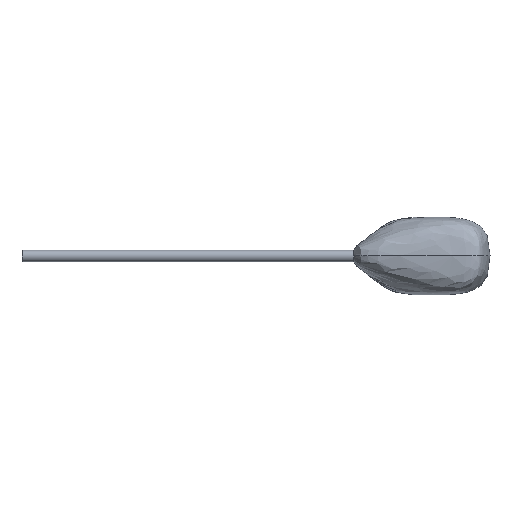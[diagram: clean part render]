
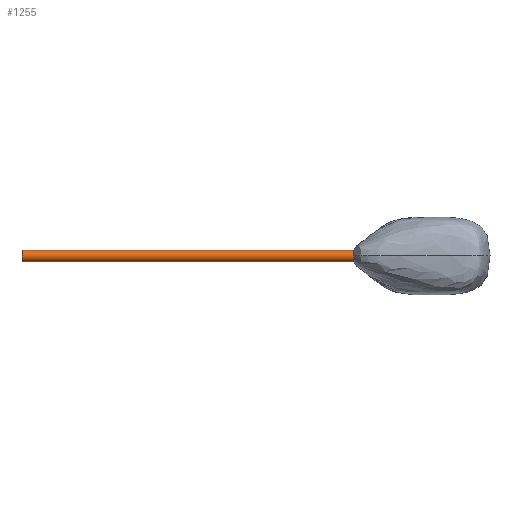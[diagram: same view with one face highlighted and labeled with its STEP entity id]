
A CAD part, front view. The second image highlights one B-rep face of the part: STEP entity #1255.
In plain terms, the highlighted cylindrical face has radius 0.3 mm (diameter 0.6 mm), a partial arc.
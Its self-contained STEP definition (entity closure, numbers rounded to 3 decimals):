
#57 = AXIS2_PLACEMENT_3D ( 'NONE', #2236, #1197, #161 ) ;
#66 = LINE ( 'NONE', #634, #1852 ) ;
#96 = CARTESIAN_POINT ( 'NONE',  ( -17., -1.27, -0.3 ) ) ;
#114 = CARTESIAN_POINT ( 'NONE',  ( -17.849, -1.27, -0.3 ) ) ;
#153 = CARTESIAN_POINT ( 'NONE',  ( 0., -1.27, -0.3 ) ) ;
#161 = DIRECTION ( 'NONE',  ( 0., 0., -1. ) ) ;
#163 = EDGE_CURVE ( 'NONE', #1410, #291, #754, .T. ) ;
#254 = ORIENTED_EDGE ( 'NONE', *, *, #1207, .T. ) ;
#267 = AXIS2_PLACEMENT_3D ( 'NONE', #2022, #1157, #1848 ) ;
#291 = VERTEX_POINT ( 'NONE', #1375 ) ;
#324 = CARTESIAN_POINT ( 'NONE',  ( 0., -1.27, 0. ) ) ;
#392 = EDGE_CURVE ( 'NONE', #291, #1571, #1693, .T. ) ;
#469 = CIRCLE ( 'NONE', #57, 0.3 ) ;
#484 = EDGE_LOOP ( 'NONE', ( #1590, #1269, #254, #643, #1352 ) ) ;
#497 = DIRECTION ( 'NONE',  ( 0., 0., -1. ) ) ;
#529 = FACE_OUTER_BOUND ( 'NONE', #484, .T. ) ;
#634 = CARTESIAN_POINT ( 'NONE',  ( -17.849, -1.27, 0.3 ) ) ;
#643 = ORIENTED_EDGE ( 'NONE', *, *, #392, .F. ) ;
#683 = CARTESIAN_POINT ( 'NONE',  ( 0., -1.27, 0. ) ) ;
#754 = CIRCLE ( 'NONE', #908, 0.3 ) ;
#806 = VERTEX_POINT ( 'NONE', #96 ) ;
#855 = DIRECTION ( 'NONE',  ( 0., 0., -1. ) ) ;
#908 = AXIS2_PLACEMENT_3D ( 'NONE', #324, #1529, #497 ) ;
#980 = VECTOR ( 'NONE', #1670, 1000. ) ;
#1019 = CARTESIAN_POINT ( 'NONE',  ( -17., -1.27, 0.3 ) ) ;
#1120 = AXIS2_PLACEMENT_3D ( 'NONE', #683, #1896, #855 ) ;
#1157 = DIRECTION ( 'NONE',  ( 1., 0., 0. ) ) ;
#1197 = DIRECTION ( 'NONE',  ( -1., 0., 0. ) ) ;
#1207 = EDGE_CURVE ( 'NONE', #806, #1571, #1976, .T. ) ;
#1227 = EDGE_CURVE ( 'NONE', #1714, #1410, #66, .T. ) ;
#1255 = ADVANCED_FACE ( 'NONE', ( #529 ), #1337, .T. ) ;
#1269 = ORIENTED_EDGE ( 'NONE', *, *, #1550, .F. ) ;
#1337 = CYLINDRICAL_SURFACE ( 'NONE', #267, 0.3 ) ;
#1352 = ORIENTED_EDGE ( 'NONE', *, *, #163, .F. ) ;
#1375 = CARTESIAN_POINT ( 'NONE',  ( 0., -1.57, 0. ) ) ;
#1410 = VERTEX_POINT ( 'NONE', #1681 ) ;
#1529 = DIRECTION ( 'NONE',  ( 1., 0., 0. ) ) ;
#1550 = EDGE_CURVE ( 'NONE', #806, #1714, #469, .T. ) ;
#1571 = VERTEX_POINT ( 'NONE', #153 ) ;
#1590 = ORIENTED_EDGE ( 'NONE', *, *, #1227, .F. ) ;
#1670 = DIRECTION ( 'NONE',  ( 1., 0., 0. ) ) ;
#1681 = CARTESIAN_POINT ( 'NONE',  ( 0., -1.27, 0.3 ) ) ;
#1693 = CIRCLE ( 'NONE', #1120, 0.3 ) ;
#1714 = VERTEX_POINT ( 'NONE', #1019 ) ;
#1848 = DIRECTION ( 'NONE',  ( 0., 0., -1. ) ) ;
#1852 = VECTOR ( 'NONE', #2186, 1000. ) ;
#1896 = DIRECTION ( 'NONE',  ( 1., 0., 0. ) ) ;
#1976 = LINE ( 'NONE', #114, #980 ) ;
#2022 = CARTESIAN_POINT ( 'NONE',  ( -17.849, -1.27, 0. ) ) ;
#2186 = DIRECTION ( 'NONE',  ( 1., 0., 0. ) ) ;
#2236 = CARTESIAN_POINT ( 'NONE',  ( -17., -1.27, 0. ) ) ;
